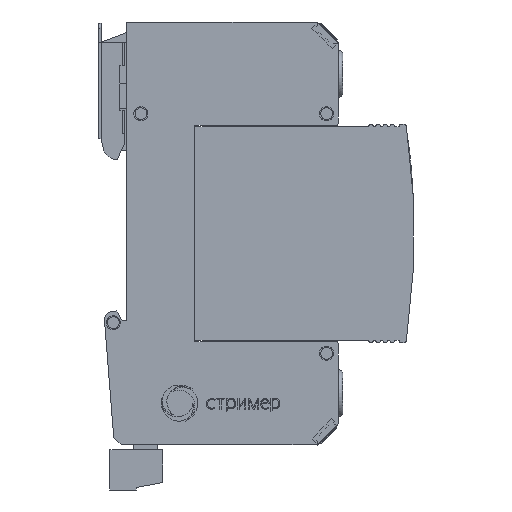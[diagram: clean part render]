
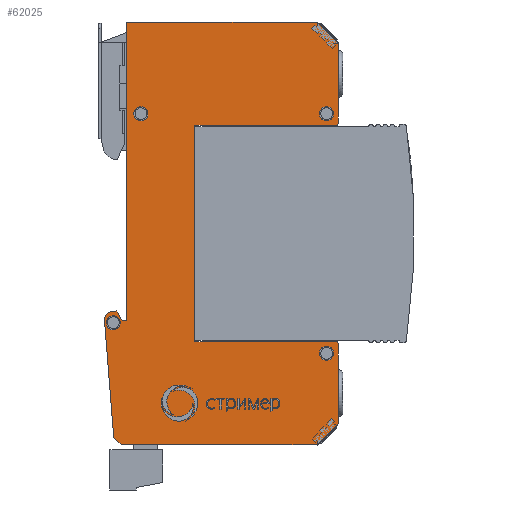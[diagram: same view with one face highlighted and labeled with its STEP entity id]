
A CAD part, front view. The second image highlights one B-rep face of the part: STEP entity #62025.
In plain terms, the highlighted planar face has unit normal (0, -1, 0).
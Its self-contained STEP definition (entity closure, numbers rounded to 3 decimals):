
#60335=CARTESIAN_POINT('',(-14.5,-18.,45.));
#60336=VERTEX_POINT('',#60335);
#60343=CARTESIAN_POINT('',(26.,-18.,45.));
#60344=VERTEX_POINT('',#60343);
#60345=CARTESIAN_POINT('',(-14.5,-18.,45.));
#60346=DIRECTION('',(1.,-0.,-0.));
#60347=VECTOR('',#60346,40.5);
#60348=LINE('',#60345,#60347);
#60349=EDGE_CURVE('',#60336,#60344,#60348,.T.);
#60973=CARTESIAN_POINT('',(-14.5,-18.,-18.5));
#60974=VERTEX_POINT('',#60973);
#60981=CARTESIAN_POINT('',(-14.5,-18.,-18.5));
#60982=DIRECTION('',(-0.,-0.,1.));
#60983=VECTOR('',#60982,63.5);
#60984=LINE('',#60981,#60983);
#60985=EDGE_CURVE('',#60974,#60336,#60984,.T.);
#61180=CARTESIAN_POINT('',(-15.5,-18.,-45.));
#61181=VERTEX_POINT('',#61180);
#61188=CARTESIAN_POINT('',(-17.29,-18.,-43.498));
#61189=VERTEX_POINT('',#61188);
#61190=CARTESIAN_POINT('',(-15.5,-18.,-45.));
#61191=DIRECTION('',(-0.766,-0.,0.643));
#61192=VECTOR('',#61191,2.337);
#61193=LINE('',#61190,#61192);
#61194=EDGE_CURVE('',#61181,#61189,#61193,.T.);
#61219=CARTESIAN_POINT('',(-19.273,-18.,-18.306));
#61220=VERTEX_POINT('',#61219);
#61221=CARTESIAN_POINT('',(-17.29,-18.,-43.498));
#61222=DIRECTION('',(-0.078,-0.,0.997));
#61223=VECTOR('',#61222,25.27);
#61224=LINE('',#61221,#61223);
#61225=EDGE_CURVE('',#61189,#61220,#61224,.T.);
#61251=CARTESIAN_POINT('',(-17.999,-18.,-16.704));
#61252=VERTEX_POINT('',#61251);
#61253=CARTESIAN_POINT('',(-17.777,-18.,-18.188));
#61254=DIRECTION('',(0.,1.,0.));
#61255=DIRECTION('',(0.,-0.,1.));
#61256=AXIS2_PLACEMENT_3D('',#61253,#61254,#61255);
#61257=CIRCLE('',#61256,1.5);
#61258=EDGE_CURVE('',#61220,#61252,#61257,.T.);
#61283=CARTESIAN_POINT('',(-16.632,-18.,-16.5));
#61284=VERTEX_POINT('',#61283);
#61285=CARTESIAN_POINT('',(-17.999,-18.,-16.704));
#61286=DIRECTION('',(0.989,-0.,0.148));
#61287=VECTOR('',#61286,1.383);
#61288=LINE('',#61285,#61287);
#61289=EDGE_CURVE('',#61252,#61284,#61288,.T.);
#61314=CARTESIAN_POINT('',(-15.5,-18.,-18.5));
#61315=VERTEX_POINT('',#61314);
#61316=CARTESIAN_POINT('',(-16.632,-18.,-16.5));
#61317=DIRECTION('',(0.492,0.,-0.87));
#61318=VECTOR('',#61317,2.298);
#61319=LINE('',#61316,#61318);
#61320=EDGE_CURVE('',#61284,#61315,#61319,.T.);
#61343=CARTESIAN_POINT('',(-15.5,-18.,-18.5));
#61344=DIRECTION('',(1.,-0.,-0.));
#61345=VECTOR('',#61344,1.);
#61346=LINE('',#61343,#61345);
#61347=EDGE_CURVE('',#61315,#60974,#61346,.T.);
#61367=CARTESIAN_POINT('',(30.5,-18.,40.5));
#61368=VERTEX_POINT('',#61367);
#61369=CARTESIAN_POINT('',(26.,-18.,45.));
#61370=DIRECTION('',(0.707,0.,-0.707));
#61371=VECTOR('',#61370,6.364);
#61372=LINE('',#61369,#61371);
#61373=EDGE_CURVE('',#60344,#61368,#61372,.T.);
#61418=CARTESIAN_POINT('',(30.5,-18.,23.5));
#61419=VERTEX_POINT('',#61418);
#61420=CARTESIAN_POINT('',(30.5,-18.,40.5));
#61421=DIRECTION('',(-0.,0.,-1.));
#61422=VECTOR('',#61421,17.);
#61423=LINE('',#61420,#61422);
#61424=EDGE_CURVE('',#61368,#61419,#61423,.T.);
#61450=CARTESIAN_POINT('',(30.,-18.,23.));
#61451=VERTEX_POINT('',#61450);
#61452=CARTESIAN_POINT('',(30.,-18.,23.5));
#61453=DIRECTION('',(0.,1.,0.));
#61454=DIRECTION('',(0.,-0.,1.));
#61455=AXIS2_PLACEMENT_3D('',#61452,#61453,#61454);
#61456=CIRCLE('',#61455,0.5);
#61457=EDGE_CURVE('',#61419,#61451,#61456,.T.);
#61482=CARTESIAN_POINT('',(0.,-18.,23.));
#61483=VERTEX_POINT('',#61482);
#61484=CARTESIAN_POINT('',(30.,-18.,23.));
#61485=DIRECTION('',(-1.,-0.,-0.));
#61486=VECTOR('',#61485,30.);
#61487=LINE('',#61484,#61486);
#61488=EDGE_CURVE('',#61451,#61483,#61487,.T.);
#61513=CARTESIAN_POINT('',(0.,-18.,-23.));
#61514=VERTEX_POINT('',#61513);
#61515=CARTESIAN_POINT('',(0.,-18.,23.));
#61516=DIRECTION('',(-0.,0.,-1.));
#61517=VECTOR('',#61516,46.);
#61518=LINE('',#61515,#61517);
#61519=EDGE_CURVE('',#61483,#61514,#61518,.T.);
#61544=CARTESIAN_POINT('',(30.,-18.,-23.));
#61545=VERTEX_POINT('',#61544);
#61546=CARTESIAN_POINT('',(0.,-18.,-23.));
#61547=DIRECTION('',(1.,-0.,-0.));
#61548=VECTOR('',#61547,30.);
#61549=LINE('',#61546,#61548);
#61550=EDGE_CURVE('',#61514,#61545,#61549,.T.);
#61576=CARTESIAN_POINT('',(30.5,-18.,-23.5));
#61577=VERTEX_POINT('',#61576);
#61578=CARTESIAN_POINT('',(30.,-18.,-23.5));
#61579=DIRECTION('',(0.,1.,0.));
#61580=DIRECTION('',(0.,-0.,1.));
#61581=AXIS2_PLACEMENT_3D('',#61578,#61579,#61580);
#61582=CIRCLE('',#61581,0.5);
#61583=EDGE_CURVE('',#61545,#61577,#61582,.T.);
#61628=CARTESIAN_POINT('',(30.5,-18.,-40.5));
#61629=VERTEX_POINT('',#61628);
#61630=CARTESIAN_POINT('',(30.5,-18.,-23.5));
#61631=DIRECTION('',(-0.,0.,-1.));
#61632=VECTOR('',#61631,17.);
#61633=LINE('',#61630,#61632);
#61634=EDGE_CURVE('',#61577,#61629,#61633,.T.);
#61659=CARTESIAN_POINT('',(26.,-18.,-45.));
#61660=VERTEX_POINT('',#61659);
#61661=CARTESIAN_POINT('',(30.5,-18.,-40.5));
#61662=DIRECTION('',(-0.707,0.,-0.707));
#61663=VECTOR('',#61662,6.364);
#61664=LINE('',#61661,#61663);
#61665=EDGE_CURVE('',#61629,#61660,#61664,.T.);
#61681=CARTESIAN_POINT('',(-17.38,-18.,-17.5));
#61682=VERTEX_POINT('',#61681);
#61683=CARTESIAN_POINT('',(-18.88,-18.,-19.));
#61684=VERTEX_POINT('',#61683);
#61685=CARTESIAN_POINT('',(-17.38,-18.,-19.));
#61686=DIRECTION('',(0.,1.,0.));
#61687=DIRECTION('',(0.,-0.,1.));
#61688=AXIS2_PLACEMENT_3D('',#61685,#61686,#61687);
#61689=CIRCLE('',#61688,1.5);
#61690=EDGE_CURVE('',#61682,#61684,#61689,.T.);
#61692=CARTESIAN_POINT('',(-17.38,-18.,-19.));
#61693=DIRECTION('',(0.,1.,0.));
#61694=DIRECTION('',(0.,-0.,1.));
#61695=AXIS2_PLACEMENT_3D('',#61692,#61693,#61694);
#61696=CIRCLE('',#61695,1.5);
#61697=EDGE_CURVE('',#61684,#61682,#61696,.T.);
#61727=CARTESIAN_POINT('',(28.,-18.,-24.));
#61728=VERTEX_POINT('',#61727);
#61729=CARTESIAN_POINT('',(26.5,-18.,-25.5));
#61730=VERTEX_POINT('',#61729);
#61731=CARTESIAN_POINT('',(28.,-18.,-25.5));
#61732=DIRECTION('',(0.,1.,0.));
#61733=DIRECTION('',(0.,-0.,1.));
#61734=AXIS2_PLACEMENT_3D('',#61731,#61732,#61733);
#61735=CIRCLE('',#61734,1.5);
#61736=EDGE_CURVE('',#61728,#61730,#61735,.T.);
#61738=CARTESIAN_POINT('',(28.,-18.,-25.5));
#61739=DIRECTION('',(0.,1.,0.));
#61740=DIRECTION('',(0.,-0.,1.));
#61741=AXIS2_PLACEMENT_3D('',#61738,#61739,#61740);
#61742=CIRCLE('',#61741,1.5);
#61743=EDGE_CURVE('',#61730,#61728,#61742,.T.);
#61773=CARTESIAN_POINT('',(-11.5,-18.,27.));
#61774=VERTEX_POINT('',#61773);
#61775=CARTESIAN_POINT('',(-13.,-18.,25.5));
#61776=VERTEX_POINT('',#61775);
#61777=CARTESIAN_POINT('',(-11.5,-18.,25.5));
#61778=DIRECTION('',(0.,1.,0.));
#61779=DIRECTION('',(0.,-0.,1.));
#61780=AXIS2_PLACEMENT_3D('',#61777,#61778,#61779);
#61781=CIRCLE('',#61780,1.5);
#61782=EDGE_CURVE('',#61774,#61776,#61781,.T.);
#61784=CARTESIAN_POINT('',(-11.5,-18.,25.5));
#61785=DIRECTION('',(0.,1.,0.));
#61786=DIRECTION('',(0.,-0.,1.));
#61787=AXIS2_PLACEMENT_3D('',#61784,#61785,#61786);
#61788=CIRCLE('',#61787,1.5);
#61789=EDGE_CURVE('',#61776,#61774,#61788,.T.);
#61819=CARTESIAN_POINT('',(28.,-18.,27.));
#61820=VERTEX_POINT('',#61819);
#61821=CARTESIAN_POINT('',(26.5,-18.,25.5));
#61822=VERTEX_POINT('',#61821);
#61823=CARTESIAN_POINT('',(28.,-18.,25.5));
#61824=DIRECTION('',(0.,1.,0.));
#61825=DIRECTION('',(0.,-0.,1.));
#61826=AXIS2_PLACEMENT_3D('',#61823,#61824,#61825);
#61827=CIRCLE('',#61826,1.5);
#61828=EDGE_CURVE('',#61820,#61822,#61827,.T.);
#61830=CARTESIAN_POINT('',(28.,-18.,25.5));
#61831=DIRECTION('',(0.,1.,0.));
#61832=DIRECTION('',(0.,-0.,1.));
#61833=AXIS2_PLACEMENT_3D('',#61830,#61831,#61832);
#61834=CIRCLE('',#61833,1.5);
#61835=EDGE_CURVE('',#61822,#61820,#61834,.T.);
#61974=CARTESIAN_POINT('',(26.,-18.,-45.));
#61975=DIRECTION('',(-1.,-0.,-0.));
#61976=VECTOR('',#61975,41.5);
#61977=LINE('',#61974,#61976);
#61978=EDGE_CURVE('',#61660,#61181,#61977,.T.);
#61984=CARTESIAN_POINT('',(0.,-18.,-0.));
#61985=DIRECTION('',(0.,1.,0.));
#61986=DIRECTION('',(0.,0.,-1.));
#61987=AXIS2_PLACEMENT_3D('',#61984,#61985,#61986);
#61988=PLANE('',#61987);
#61989=ORIENTED_EDGE('',*,*,#61835,.T.);
#61990=ORIENTED_EDGE('',*,*,#61828,.T.);
#61991=EDGE_LOOP('',(#61989,#61990));
#61992=FACE_BOUND('',#61991,.T.);
#61993=ORIENTED_EDGE('',*,*,#61789,.T.);
#61994=ORIENTED_EDGE('',*,*,#61782,.T.);
#61995=EDGE_LOOP('',(#61993,#61994));
#61996=FACE_BOUND('',#61995,.T.);
#61997=ORIENTED_EDGE('',*,*,#61743,.T.);
#61998=ORIENTED_EDGE('',*,*,#61736,.T.);
#61999=EDGE_LOOP('',(#61997,#61998));
#62000=FACE_BOUND('',#61999,.T.);
#62001=ORIENTED_EDGE('',*,*,#61697,.T.);
#62002=ORIENTED_EDGE('',*,*,#61690,.T.);
#62003=EDGE_LOOP('',(#62001,#62002));
#62004=FACE_BOUND('',#62003,.T.);
#62005=ORIENTED_EDGE('',*,*,#61194,.F.);
#62006=ORIENTED_EDGE('',*,*,#61978,.F.);
#62007=ORIENTED_EDGE('',*,*,#61665,.F.);
#62008=ORIENTED_EDGE('',*,*,#61634,.F.);
#62009=ORIENTED_EDGE('',*,*,#61583,.F.);
#62010=ORIENTED_EDGE('',*,*,#61550,.F.);
#62011=ORIENTED_EDGE('',*,*,#61519,.F.);
#62012=ORIENTED_EDGE('',*,*,#61488,.F.);
#62013=ORIENTED_EDGE('',*,*,#61457,.F.);
#62014=ORIENTED_EDGE('',*,*,#61424,.F.);
#62015=ORIENTED_EDGE('',*,*,#61373,.F.);
#62016=ORIENTED_EDGE('',*,*,#60349,.F.);
#62017=ORIENTED_EDGE('',*,*,#60985,.F.);
#62018=ORIENTED_EDGE('',*,*,#61347,.F.);
#62019=ORIENTED_EDGE('',*,*,#61320,.F.);
#62020=ORIENTED_EDGE('',*,*,#61289,.F.);
#62021=ORIENTED_EDGE('',*,*,#61258,.F.);
#62022=ORIENTED_EDGE('',*,*,#61225,.F.);
#62023=EDGE_LOOP('',(#62005,#62006,#62007,#62008,#62009,#62010,#62011,#62012,#62013,#62014,#62015,#62016,#62017,#62018,#62019,#62020,#62021,#62022));
#62024=FACE_BOUND('',#62023,.T.);
#62025=ADVANCED_FACE('',(#61992,#61996,#62000,#62004,#62024),#61988,.F.);
